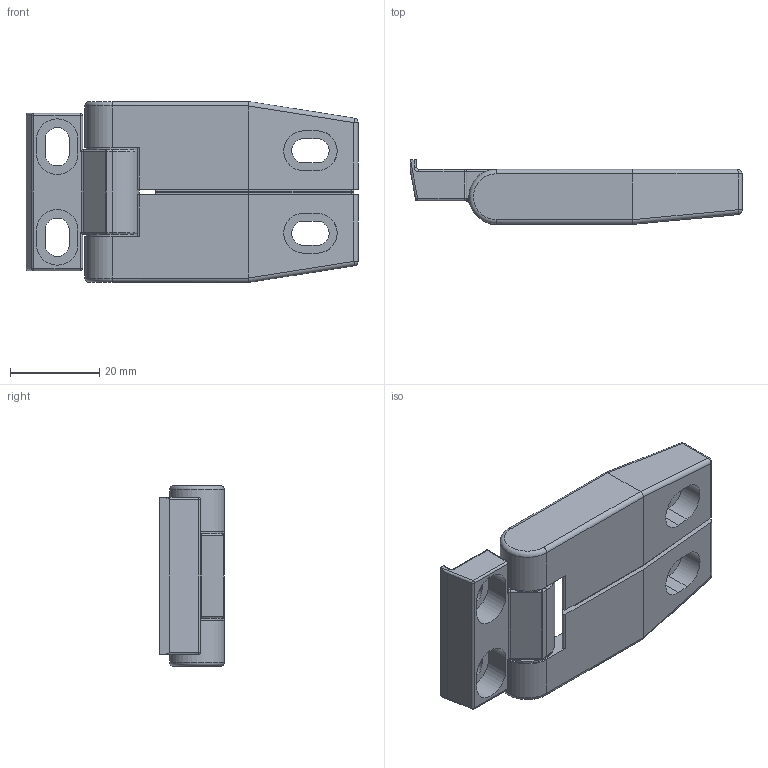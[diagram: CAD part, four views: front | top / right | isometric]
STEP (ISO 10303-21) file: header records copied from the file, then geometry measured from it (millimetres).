
FILE_DESCRIPTION((''),'2;1');
FILE_NAME('CL119_ASM','2016-07-13T',('master'),(''),'PRO/ENGINEER BY PARAMETRIC TECHNOLOGY CORPORATION, 2009060','PRO/ENGINEER BY PARAMETRIC TECHNOLOGY CORPORATION, 2009060','');
FILE_SCHEMA(('CONFIG_CONTROL_DESIGN'));
Length unit declared in the file: millimetre
Products named in the file (6): DINGJIAOLIAN-119; XIAOZHOU-119; DIANPIAN-119; YOUJIAOLIAN-119; ZUOJIAOLIAN-119; CL119_ASM
Assembly tree (6 placements, depth 2):
  CL119_ASM
    DINGJIAOLIAN-119
    XIAOZHOU-119
    DIANPIAN-119  x2
    YOUJIAOLIAN-119
    ZUOJIAOLIAN-119
Bounding box: 74.42 x 14.46 x 40.56 mm (x, y, z)
Volume: 18188.8 mm3; surface area: 13795.8 mm2
Topology: 6 solids, 6 shells, 282 faces, 697 edges, 438 vertices
Faces by surface type: plane 129, cylinder 123, sphere 14, torus 10, cone 4, bspline 2
Entity records: 8605 total; most frequent: CARTESIAN_POINT 1796, DIRECTION 1429, ORIENTED_EDGE 1370, EDGE_CURVE 685, AXIS2_PLACEMENT_3D 500, VERTEX_POINT 430, VECTOR 429, LINE 429
